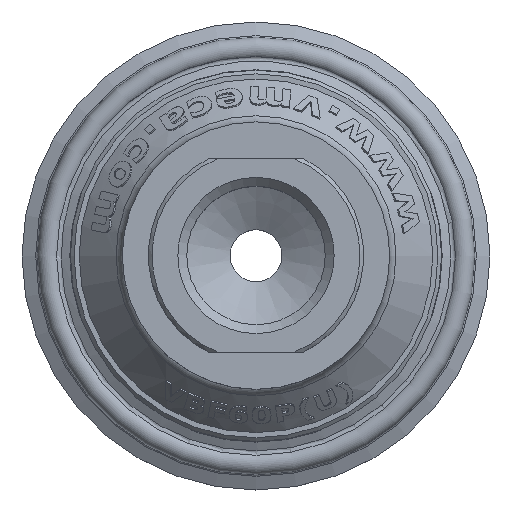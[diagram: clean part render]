
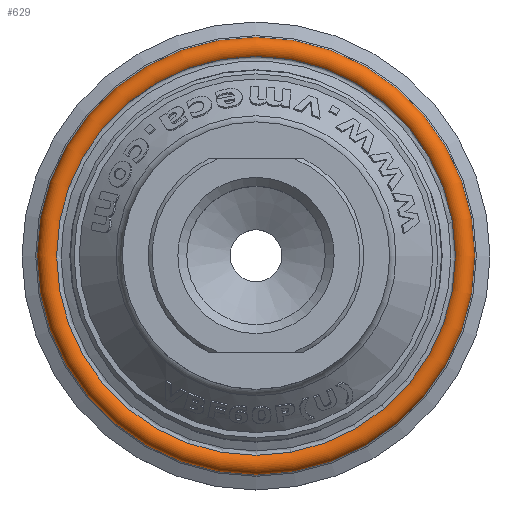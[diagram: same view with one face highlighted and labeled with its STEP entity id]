
A CAD part, top view. The second image highlights one B-rep face of the part: STEP entity #629.
In plain terms, the highlighted toroidal (fillet/blend) face has major radius 27.948 mm and minor radius 1.5 mm.
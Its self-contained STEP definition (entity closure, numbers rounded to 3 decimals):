
#629 = ADVANCED_FACE( '', ( #1446, #1447 ), #1448, .T. );
#1446 = FACE_OUTER_BOUND( '', #5816, .T. );
#1447 = FACE_OUTER_BOUND( '', #5817, .T. );
#1448 = TOROIDAL_SURFACE( '', #5818, 27.948, 1.5 );
#5816 = EDGE_LOOP( '', ( #10972 ) );
#5817 = EDGE_LOOP( '', ( #10973 ) );
#5818 = AXIS2_PLACEMENT_3D( '', #10974, #10975, #10976 );
#10972 = ORIENTED_EDGE( '', *, *, #12697, .T. );
#10973 = ORIENTED_EDGE( '', *, *, #12765, .F. );
#10974 = CARTESIAN_POINT( '', ( 0., 0., -18.984 ) );
#10975 = DIRECTION( '', ( 0., 0., 1. ) );
#10976 = DIRECTION( '', ( 1., 0., 0. ) );
#12697 = EDGE_CURVE( '', #14064, #14064, #14065, .T. );
#12765 = EDGE_CURVE( '', #14161, #14161, #14162, .T. );
#14064 = VERTEX_POINT( '', #18986 );
#14065 = CIRCLE( '', #18987, 29.407 );
#14161 = VERTEX_POINT( '', #19419 );
#14162 = CIRCLE( '', #19420, 26.842 );
#18986 = CARTESIAN_POINT( '', ( 29.407, 0., -19.335 ) );
#18987 = AXIS2_PLACEMENT_3D( '', #21947, #21948, #21949 );
#19419 = CARTESIAN_POINT( '', ( 26.842, 0., -17.971 ) );
#19420 = AXIS2_PLACEMENT_3D( '', #21961, #21962, #21963 );
#21947 = CARTESIAN_POINT( '', ( 0., 0., -19.335 ) );
#21948 = DIRECTION( '', ( 0., 0., 1. ) );
#21949 = DIRECTION( '', ( 1., 0., 0. ) );
#21961 = CARTESIAN_POINT( '', ( 0., 0., -17.971 ) );
#21962 = DIRECTION( '', ( 0., 0., 1. ) );
#21963 = DIRECTION( '', ( 1., 0., 0. ) );
